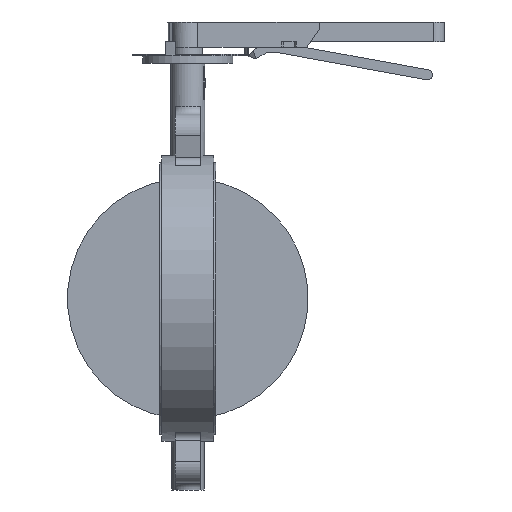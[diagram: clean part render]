
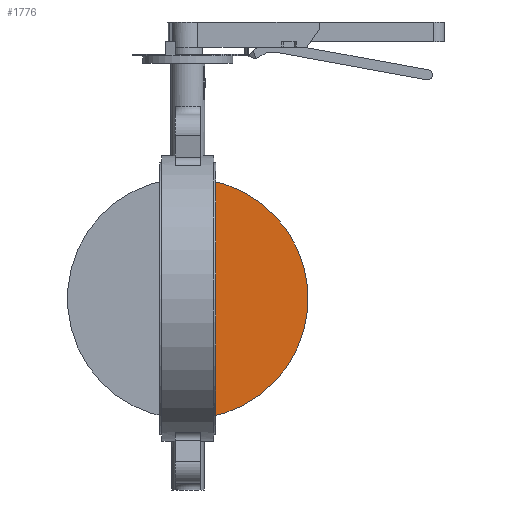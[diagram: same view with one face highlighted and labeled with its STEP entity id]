
A CAD part, front view. The second image highlights one B-rep face of the part: STEP entity #1776.
In plain terms, the highlighted planar face has unit normal (0, -1, 0).
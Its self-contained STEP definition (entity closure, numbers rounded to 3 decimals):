
#1776=ADVANCED_FACE('',(#3259),#3261,.T.);
#3259=FACE_BOUND('',#3260,.T.);
#3260=EDGE_LOOP('',(#4306,#4307));
#3261=PLANE('',#3262);
#3262=AXIS2_PLACEMENT_3D('',#3263,#3264,#3265);
#3263=CARTESIAN_POINT('',(0.,-2.5,0.));
#3264=DIRECTION('',(0.,-1.,0.));
#3265=DIRECTION('',(0.,0.,1.));
#4306=ORIENTED_EDGE('',*,*,#4819,.T.);
#4307=ORIENTED_EDGE('',*,*,#4827,.T.);
#4819=EDGE_CURVE('',#5673,#5670,#5674,.T.);
#4827=EDGE_CURVE('',#5670,#5673,#5687,.T.);
#5670=VERTEX_POINT('',#8783);
#5673=VERTEX_POINT('',#8813);
#5674=LINE('',#8814,#8815);
#5687=CIRCLE('',#8919,166.66);
#8783=CARTESIAN_POINT('',(22.361,-2.5,-165.153));
#8813=CARTESIAN_POINT('',(22.361,-2.5,165.153));
#8814=CARTESIAN_POINT('',(22.361,-2.5,165.153));
#8815=VECTOR('',#8816,1.);
#8816=DIRECTION('',(0.,0.,-1.));
#8919=AXIS2_PLACEMENT_3D('',#8920,#8921,#8922);
#8920=CARTESIAN_POINT('',(0.,-2.5,0.));
#8921=DIRECTION('',(0.,-1.,0.));
#8922=DIRECTION('',(0.134,0.,-0.991));
